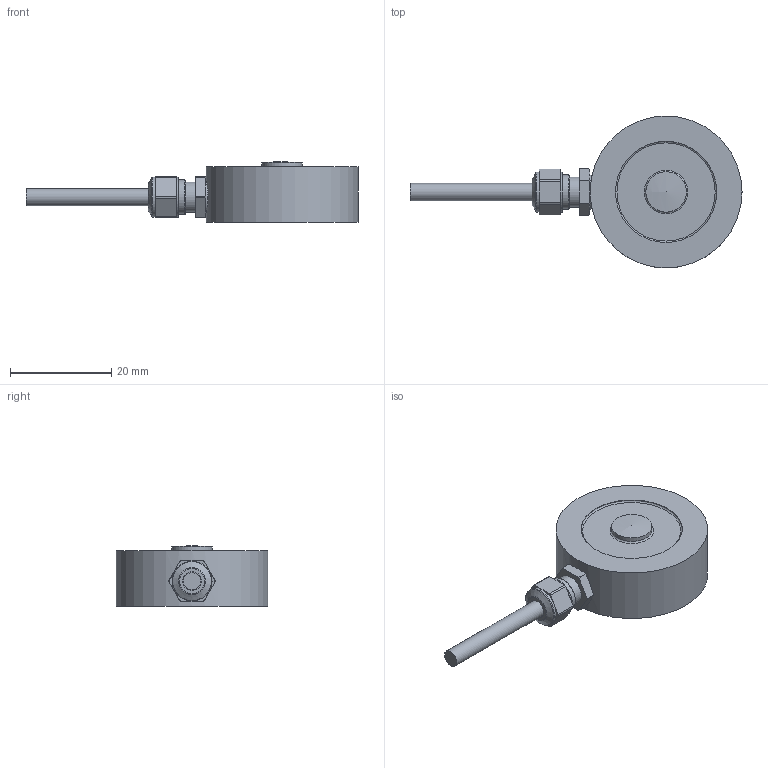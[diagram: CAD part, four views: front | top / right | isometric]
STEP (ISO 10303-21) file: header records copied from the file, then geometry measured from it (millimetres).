
FILE_DESCRIPTION(/* description */ (''),/* implementation_level */ '2;1');
FILE_NAME(/* name */ 'I:/New Datasheets/STEP Models/Pending models/CDFM3 v2.step',/* time_stamp */ '2019-06-14T11:46:30+01:00',/* author */ (''),/* organization */ (''),/* preprocessor_version */ 'ST-DEVELOPER v18',/* originating_system */ 'Autodesk Translation Framework v8.2.0.1029',/* authorisation */ '');
FILE_SCHEMA (('AUTOMOTIVE_DESIGN { 1 0 10303 214 3 1 1 }'));
Length unit declared in the file: millimetre
Products named in the file (2): CDFM3; CDFM3_1
Assembly tree (1 placements, depth 2):
  CDFM3
    CDFM3_1
Bounding box: 65.58 x 30 x 12 mm (x, y, z)
Volume: 8141.2 mm3; surface area: 4068.8 mm2
Topology: 4 solids, 4 shells, 203 faces, 506 edges, 324 vertices
Faces by surface type: cylinder 134, plane 37, cone 15, torus 10, bspline 6, sphere 1
Full cylindrical faces by diameter (mm): 2.529 x48, 3.086 x45, 3.4 x2, 3.6 x1, 3.7 x1, 4.7 x1, 4.773 x1, 4.8 x2, 5.035 x2, 5.93 x1, 6.2 x1, 6.38 x1, 6.84 x1, 7.9 x2, 8 x1, 20 x1, 20.5 x1, 30 x1
Entity records: 10863 total; most frequent: CARTESIAN_POINT 6244, ORIENTED_EDGE 1002, DIRECTION 872, EDGE_CURVE 501, AXIS2_PLACEMENT_3D 352, VERTEX_POINT 324, EDGE_LOOP 225, FACE_OUTER_BOUND 203
